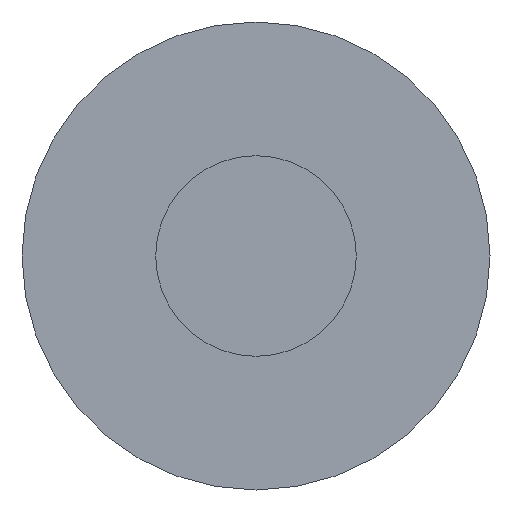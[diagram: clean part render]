
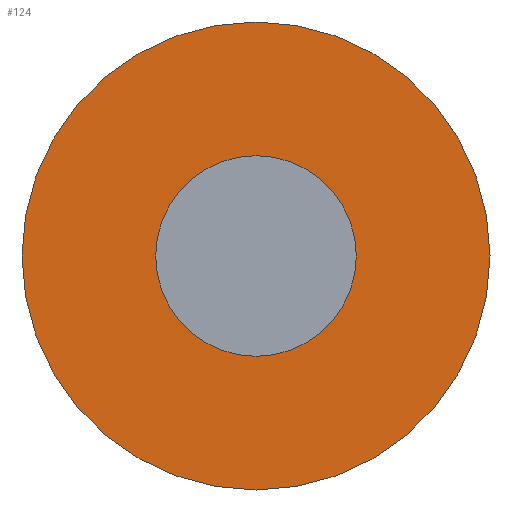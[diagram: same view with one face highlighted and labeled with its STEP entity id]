
A CAD part, front view. The second image highlights one B-rep face of the part: STEP entity #124.
In plain terms, the highlighted planar face has unit normal (0, -1, 0).
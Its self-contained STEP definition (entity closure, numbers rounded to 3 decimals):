
#84=CARTESIAN_POINT('',(9.128,21.421,3.));
#85=VERTEX_POINT('',#84);
#86=CARTESIAN_POINT('',(9.128,21.421,0.));
#87=DIRECTION('',(0.0,1.0,0.0));
#88=DIRECTION('',(-1.0,0.0,0.0));
#89=AXIS2_PLACEMENT_3D('',#86,#87,#88);
#90=CIRCLE('',#89,3.0);
#91=EDGE_CURVE('',#85,#85,#90,.F.);
#105=CARTESIAN_POINT('',(1.428,21.421,7.7));
#106=DIRECTION('',(0.0,-1.0,0.0));
#107=DIRECTION('',(0.0,0.0,-1.0));
#108=AXIS2_PLACEMENT_3D('',#105,#106,#107);
#109=PLANE('',#108);
#110=CARTESIAN_POINT('',(9.128,21.421,7.));
#111=VERTEX_POINT('',#110);
#112=CARTESIAN_POINT('',(9.128,21.421,0.0));
#113=DIRECTION('',(0.0,1.0,0.0));
#114=DIRECTION('',(-1.0,0.0,0.0));
#115=AXIS2_PLACEMENT_3D('',#112,#113,#114);
#116=CIRCLE('',#115,7.);
#117=EDGE_CURVE('',#111,#111,#116,.F.);
#118=ORIENTED_EDGE('',*,*,#117,.T.);
#119=EDGE_LOOP('',(#118));
#120=FACE_OUTER_BOUND('',#119,.T.);
#121=ORIENTED_EDGE('',*,*,#91,.F.);
#122=EDGE_LOOP('',(#121));
#123=FACE_BOUND('',#122,.T.);
#124=ADVANCED_FACE('',(#120,#123),#109,.T.);
